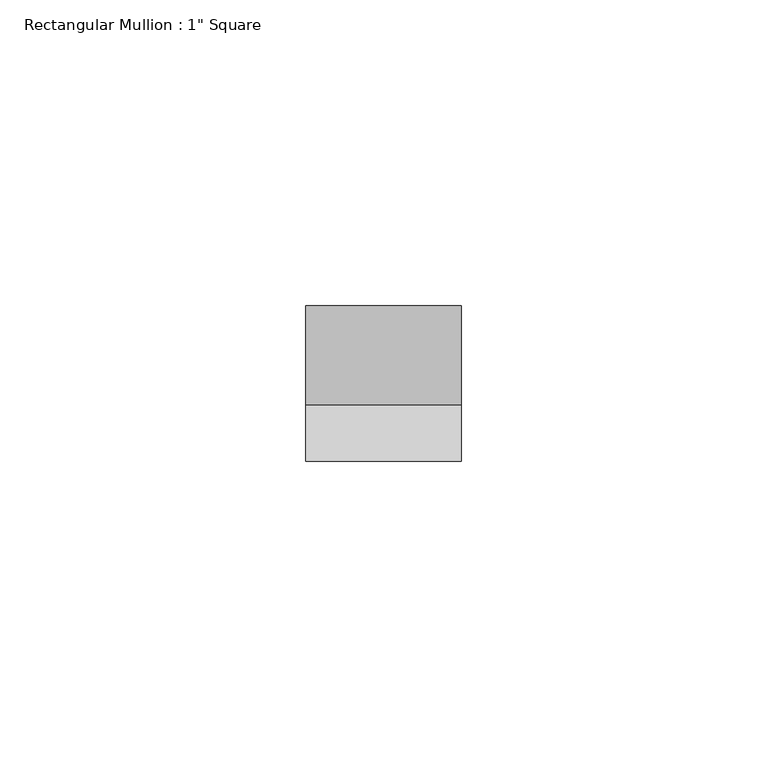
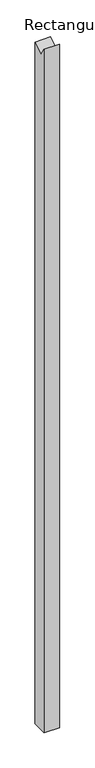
"""IFC4 building model written with IfcOpenShell, lengths in millimetres: member geometry."""

from ifc_helpers import new_model, si_unit, frame, origin, place, context, project, spatial, polyline, outline, extrude, source, transform, mapped, element, save


def member_9fdc8c74(model_context):
    return source(origin(), model_context, "Body", "SweptSolid", [
        extrude(outline(polyline([(-12.7, 8.8381271), (-3.480121, -4.9201237), (12.7, 5.9227342), (12.7, -1172.6130715), (-12.7, -1172.6130715), (-12.7, 8.8381271)])), frame((-25.4, 0.0, 0.0), z_axis=(1.0, 0.0, 0.0), x_axis=(0.0, 1.0, 0.0)), (0.0, 0.0, 1.0), 25.4),
    ])


if __name__ == "__main__":
    model = new_model("IFC4")
    model_context = context("Model", 3, world=origin())
    ifc_project = project(units=[si_unit("LENGTHUNIT", "METRE", prefix="MILLI")], contexts=[model_context])
    site = spatial("IfcSite", under=ifc_project)
    building = spatial("IfcBuilding", under=site)
    placement = place(None, origin())
    member_shape = member_9fdc8c74(model_context)
    element("IfcMember", 1, ObjectType="Rectangular Mullion : 1\" Square", at=placement, inside=building, context=model_context, shape_type="MappedRepresentation", body=[
        mapped(member_shape, transform((0.0, 0.0, 0.0), x_axis=(1.0, 0.0, 0.0), y_axis=(0.0, 1.0, 0.0), z_axis=(0.0, 0.0, 1.0))),
    ])
    save(model, "model.ifc")
